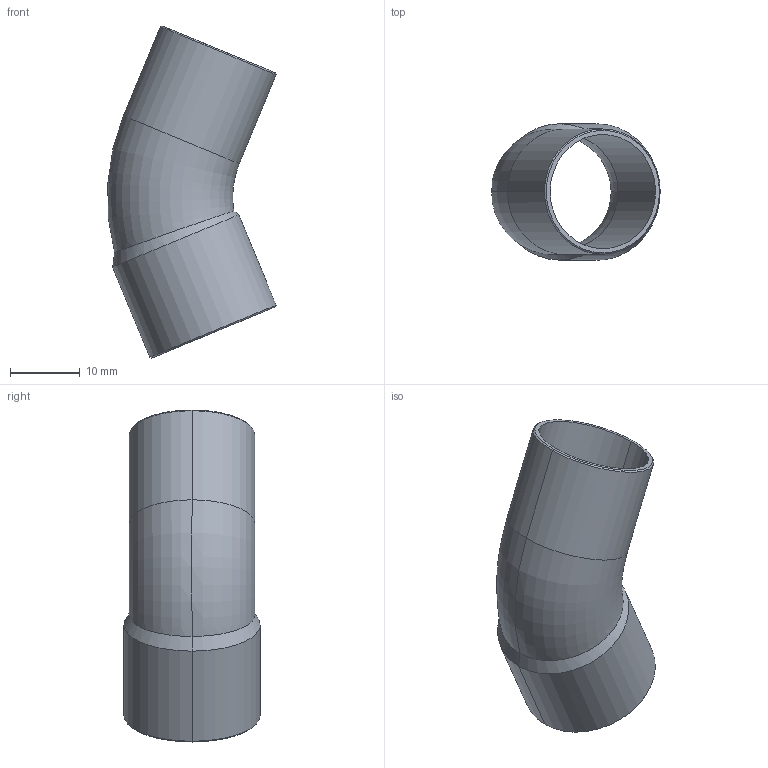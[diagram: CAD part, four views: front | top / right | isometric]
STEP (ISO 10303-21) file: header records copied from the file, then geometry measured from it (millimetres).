
FILE_DESCRIPTION((''),'2;1');
FILE_NAME('P:\Bouwmaten\z-maattekeningen 3D\5000\5040\1504018.stp','2005-10-05T11:11:39',('Kris'),(''),'Autodesk Inventor 8','Autodesk Inventor 8','');
FILE_SCHEMA(('AUTOMOTIVE_DESIGN { 1 0 10303 214 1 1 1 1 }'));
Length unit declared in the file: millimetre
Products named in the file (1): 1504018
Bounding box: 24.19 x 19.6 x 47.69 mm (x, y, z)
Volume: 1926.9 mm3; surface area: 4895.8 mm2
Topology: 1 solids, 1 shells, 24 faces, 50 edges, 28 vertices
Faces by surface type: cone 10, cylinder 8, torus 4, plane 2
Entity records: 729 total; most frequent: CARTESIAN_POINT 179, DIRECTION 124, ORIENTED_EDGE 100, AXIS2_PLACEMENT_3D 53, EDGE_CURVE 50, VERTEX_POINT 28, CIRCLE 28, EDGE_LOOP 26
